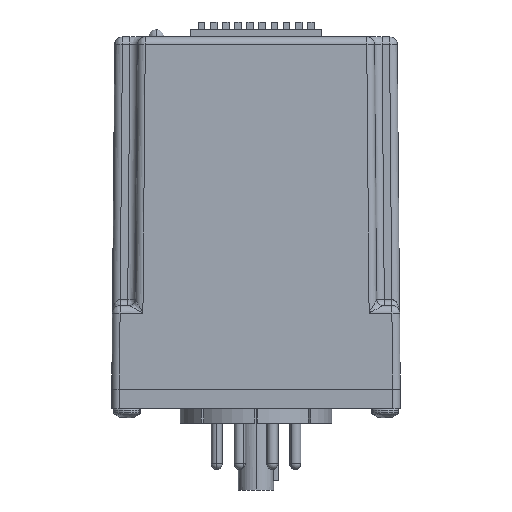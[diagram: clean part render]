
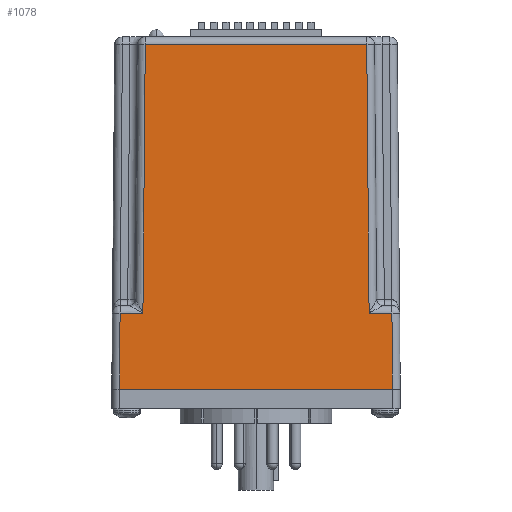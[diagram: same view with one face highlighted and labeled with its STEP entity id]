
A CAD part, left-side view. The second image highlights one B-rep face of the part: STEP entity #1078.
In plain terms, the highlighted planar face has unit normal (-1, 0, 0.009).
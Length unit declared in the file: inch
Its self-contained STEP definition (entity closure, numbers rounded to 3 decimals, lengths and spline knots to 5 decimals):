
#1026 = ORIENTED_EDGE ( 'NONE', *, *, #1027, .T. ) ;
#1027 = EDGE_CURVE ( 'NONE', #1028, #1029, #11845, .T. ) ;
#1028 = VERTEX_POINT ( 'NONE', #11841 ) ;
#1029 = VERTEX_POINT ( 'NONE', #11840 ) ;
#1037 = ORIENTED_EDGE ( 'NONE', *, *, #1038, .T. ) ;
#1038 = EDGE_CURVE ( 'NONE', #1029, #1039, #11829, .T. ) ;
#1039 = VERTEX_POINT ( 'NONE', #11820 ) ;
#1048 = VERTEX_POINT ( 'NONE', #11866 ) ;
#1052 = EDGE_CURVE ( 'NONE', #1130, #1028, #11855, .T. ) ;
#1053 = EDGE_CURVE ( 'NONE', #1048, #1130, #11916, .T. ) ;
#1054 = ORIENTED_EDGE ( 'NONE', *, *, #1052, .T. ) ;
#1074 = EDGE_LOOP ( 'NONE', ( #1026, #1037, #1119, #1120, #1125, #1128, #1129, #1054 ) ) ;
#1078 = ADVANCED_FACE ( 'NONE', ( #11929 ), #11928, .T. ) ;
#1119 = ORIENTED_EDGE ( 'NONE', *, *, #1123, .T. ) ;
#1120 = ORIENTED_EDGE ( 'NONE', *, *, #1122, .T. ) ;
#1121 = VERTEX_POINT ( 'NONE', #11985 ) ;
#1122 = EDGE_CURVE ( 'NONE', #1124, #1121, #11983, .T. ) ;
#1123 = EDGE_CURVE ( 'NONE', #1039, #1124, #12036, .T. ) ;
#1124 = VERTEX_POINT ( 'NONE', #12032 ) ;
#1125 = ORIENTED_EDGE ( 'NONE', *, *, #1127, .T. ) ;
#1126 = VERTEX_POINT ( 'NONE', #12031 ) ;
#1127 = EDGE_CURVE ( 'NONE', #1121, #1126, #12030, .T. ) ;
#1128 = ORIENTED_EDGE ( 'NONE', *, *, #1131, .T. ) ;
#1129 = ORIENTED_EDGE ( 'NONE', *, *, #1053, .T. ) ;
#1130 = VERTEX_POINT ( 'NONE', #12026 ) ;
#1131 = EDGE_CURVE ( 'NONE', #1126, #1048, #12025, .T. ) ;
#11820 = CARTESIAN_POINT ( 'NONE',  ( -0.86954, 1.11904, 0.62555 ) ) ;
#11821 = DIRECTION ( 'NONE',  ( 0., 1., 0. ) ) ;
#11822 = VECTOR ( 'NONE', #11821, 39.37008 ) ;
#11823 = CARTESIAN_POINT ( 'NONE',  ( -0.86954, 1.1185, 0.62555 ) ) ;
#11829 = LINE ( 'NONE', #11823, #11822 ) ;
#11840 = CARTESIAN_POINT ( 'NONE',  ( -0.86954, 0.93104, 0.62555 ) ) ;
#11841 = CARTESIAN_POINT ( 'NONE',  ( -0.85024, 0.91174, 2.83755 ) ) ;
#11842 = DIRECTION ( 'NONE',  ( -0.009, 0.009, -1. ) ) ;
#11843 = VECTOR ( 'NONE', #11842, 39.37008 ) ;
#11844 = CARTESIAN_POINT ( 'NONE',  ( -0.87484, 0.93634, 0.01853 ) ) ;
#11845 = LINE ( 'NONE', #11844, #11843 ) ;
#11852 = DIRECTION ( 'NONE',  ( 0., 1., 0. ) ) ;
#11853 = VECTOR ( 'NONE', #11852, 39.37008 ) ;
#11854 = CARTESIAN_POINT ( 'NONE',  ( -0.85024, 0.91119, 2.83755 ) ) ;
#11855 = LINE ( 'NONE', #11854, #11853 ) ;
#11866 = CARTESIAN_POINT ( 'NONE',  ( -0.86954, -0.93104, 0.62555 ) ) ;
#11913 = DIRECTION ( 'NONE',  ( 0.009, 0.009, 1. ) ) ;
#11914 = VECTOR ( 'NONE', #11913, 39.37008 ) ;
#11915 = CARTESIAN_POINT ( 'NONE',  ( -0.87502, -0.93652, -0.00219 ) ) ;
#11916 = LINE ( 'NONE', #11915, #11914 ) ;
#11924 = DIRECTION ( 'NONE',  ( 0.009, 0., 1. ) ) ;
#11925 = DIRECTION ( 'NONE',  ( -1., 0., 0.009 ) ) ;
#11926 = CARTESIAN_POINT ( 'NONE',  ( -0.875, -1.1875, 0. ) ) ;
#11927 = AXIS2_PLACEMENT_3D ( 'NONE', #11926, #11925, #11924 ) ;
#11928 = PLANE ( 'NONE',  #11927 ) ;
#11929 = FACE_OUTER_BOUND ( 'NONE', #1074, .T. ) ;
#11980 = DIRECTION ( 'NONE',  ( 0., -1., 0. ) ) ;
#11981 = VECTOR ( 'NONE', #11980, 39.37008 ) ;
#11982 = CARTESIAN_POINT ( 'NONE',  ( -0.875, -1.1875, 0. ) ) ;
#11983 = LINE ( 'NONE', #11982, #11981 ) ;
#11985 = CARTESIAN_POINT ( 'NONE',  ( -0.875, -1.1245, 0. ) ) ;
#12022 = DIRECTION ( 'NONE',  ( 0., 1., 0. ) ) ;
#12023 = VECTOR ( 'NONE', #12022, 39.37008 ) ;
#12024 = CARTESIAN_POINT ( 'NONE',  ( -0.86954, -0.9305, 0.62555 ) ) ;
#12025 = LINE ( 'NONE', #12024, #12023 ) ;
#12026 = CARTESIAN_POINT ( 'NONE',  ( -0.85024, -0.91174, 2.83755 ) ) ;
#12027 = DIRECTION ( 'NONE',  ( 0.009, 0.009, 1. ) ) ;
#12028 = VECTOR ( 'NONE', #12027, 39.37008 ) ;
#12029 = CARTESIAN_POINT ( 'NONE',  ( -0.875, -1.12451, -0.00055 ) ) ;
#12030 = LINE ( 'NONE', #12029, #12028 ) ;
#12031 = CARTESIAN_POINT ( 'NONE',  ( -0.86954, -1.11904, 0.62555 ) ) ;
#12032 = CARTESIAN_POINT ( 'NONE',  ( -0.875, 1.1245, 0. ) ) ;
#12033 = DIRECTION ( 'NONE',  ( -0.009, 0.009, -1. ) ) ;
#12034 = VECTOR ( 'NONE', #12033, 39.37008 ) ;
#12035 = CARTESIAN_POINT ( 'NONE',  ( -0.87482, 1.12433, 0.02017 ) ) ;
#12036 = LINE ( 'NONE', #12035, #12034 ) ;
